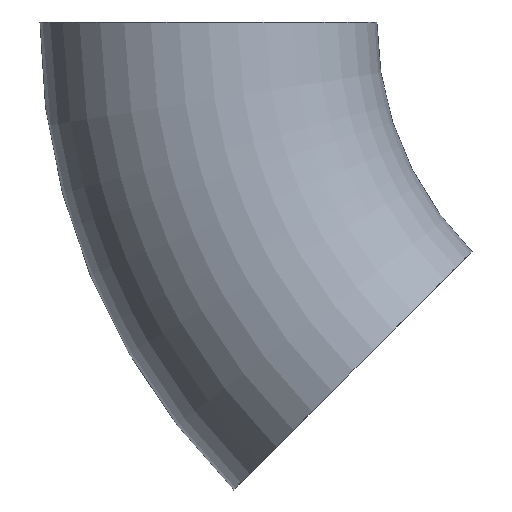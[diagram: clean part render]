
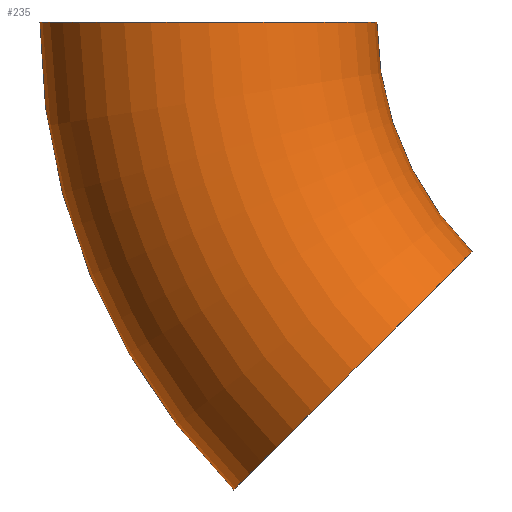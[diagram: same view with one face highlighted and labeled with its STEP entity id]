
A CAD part, front view. The second image highlights one B-rep face of the part: STEP entity #235.
In plain terms, the highlighted toroidal (fillet/blend) face has major radius 123 mm and minor radius 42 mm.
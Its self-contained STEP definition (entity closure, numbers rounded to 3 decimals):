
#14 = DIRECTION ( 'NONE',  ( 0.707, 0., 0.707 ) ) ;
#20 = CIRCLE ( 'NONE', #72, 42. ) ;
#23 = CARTESIAN_POINT ( 'NONE',  ( 0., 0., 0. ) ) ;
#24 = DIRECTION ( 'NONE',  ( 0., 1., 0. ) ) ;
#25 = EDGE_CURVE ( 'NONE', #190, #187, #152, .T. ) ;
#29 = CARTESIAN_POINT ( 'NONE',  ( -165., 0., 0. ) ) ;
#43 = DIRECTION ( 'NONE',  ( 0., 0., 1. ) ) ;
#44 = EDGE_CURVE ( 'NONE', #176, #187, #174, .T. ) ;
#47 = CARTESIAN_POINT ( 'NONE',  ( -116.673, 0., -116.673 ) ) ;
#57 = EDGE_CURVE ( 'NONE', #66, #190, #120, .T. ) ;
#66 = VERTEX_POINT ( 'NONE', #47 ) ;
#72 = AXIS2_PLACEMENT_3D ( 'NONE', #91, #167, #14 ) ;
#83 = ORIENTED_EDGE ( 'NONE', *, *, #25, .F. ) ;
#86 = CARTESIAN_POINT ( 'NONE',  ( 0., 0., 0. ) ) ;
#91 = CARTESIAN_POINT ( 'NONE',  ( -86.974, 0., -86.974 ) ) ;
#97 = DIRECTION ( 'NONE',  ( 0., 0., 1. ) ) ;
#98 = DIRECTION ( 'NONE',  ( 0., 1., 0. ) ) ;
#110 = EDGE_LOOP ( 'NONE', ( #137, #139, #234, #83 ) ) ;
#111 = AXIS2_PLACEMENT_3D ( 'NONE', #86, #24, #43 ) ;
#116 = AXIS2_PLACEMENT_3D ( 'NONE', #23, #98, #172 ) ;
#117 = CARTESIAN_POINT ( 'NONE',  ( -123., 0., 0. ) ) ;
#120 = CIRCLE ( 'NONE', #116, 165. ) ;
#127 = CARTESIAN_POINT ( 'NONE',  ( -81., 0., 0. ) ) ;
#128 = CARTESIAN_POINT ( 'NONE',  ( 0., 0., 0. ) ) ;
#137 = ORIENTED_EDGE ( 'NONE', *, *, #57, .F. ) ;
#139 = ORIENTED_EDGE ( 'NONE', *, *, #206, .T. ) ;
#145 = DIRECTION ( 'NONE',  ( 0., 1., 0. ) ) ;
#149 = AXIS2_PLACEMENT_3D ( 'NONE', #128, #145, #202 ) ;
#152 = CIRCLE ( 'NONE', #168, 42. ) ;
#167 = DIRECTION ( 'NONE',  ( -0.707, 0., 0.707 ) ) ;
#168 = AXIS2_PLACEMENT_3D ( 'NONE', #117, #97, #192 ) ;
#172 = DIRECTION ( 'NONE',  ( 0., 0., 1. ) ) ;
#174 = CIRCLE ( 'NONE', #111, 81. ) ;
#176 = VERTEX_POINT ( 'NONE', #184 ) ;
#184 = CARTESIAN_POINT ( 'NONE',  ( -57.276, 0., -57.276 ) ) ;
#187 = VERTEX_POINT ( 'NONE', #127 ) ;
#190 = VERTEX_POINT ( 'NONE', #29 ) ;
#192 = DIRECTION ( 'NONE',  ( 1., 0., 0. ) ) ;
#202 = DIRECTION ( 'NONE',  ( 0., 0., 1. ) ) ;
#206 = EDGE_CURVE ( 'NONE', #66, #176, #20, .T. ) ;
#225 = FACE_OUTER_BOUND ( 'NONE', #110, .T. ) ;
#234 = ORIENTED_EDGE ( 'NONE', *, *, #44, .T. ) ;
#235 = ADVANCED_FACE ( 'NONE', ( #225 ), #245, .T. ) ;
#245 = TOROIDAL_SURFACE ( 'NONE', #149, 123., 42. ) ;
